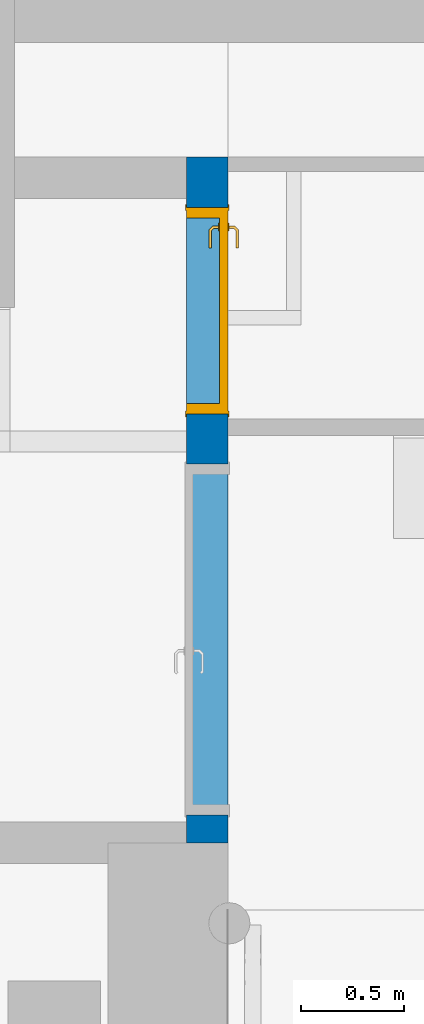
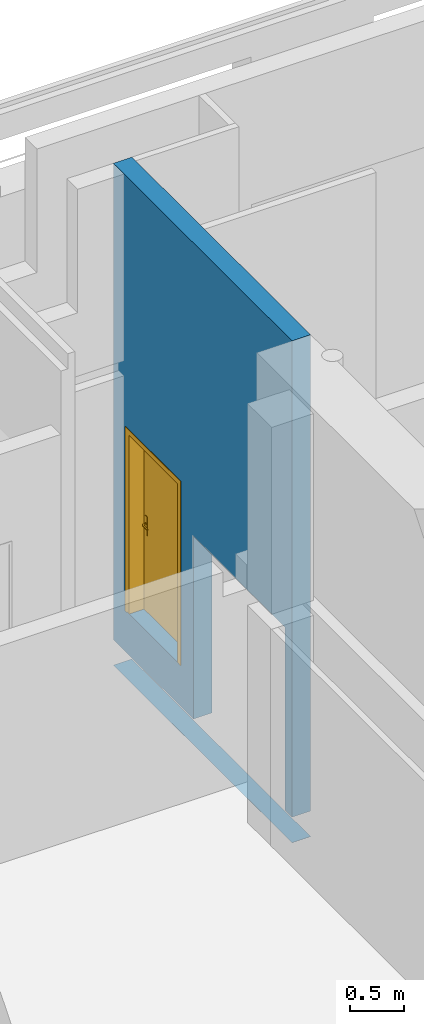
# One storey, part 16 of 39: 1 door, 1 wall, 2 openings.
"""IFC4 building model written with IfcOpenShell, lengths in metres."""

from ifc_helpers import new_model, entity, si_unit, converted_unit, derived_unit, direction, frame, origin, place, context, subcontext, project, spatial, indexed_curve, outline, extrude, polygons, source, transform, mapped, material, material_list, layer, layer_set, constituent, constituent_set, type_object, type_shapes, element, fill, save


model = new_model("IFC4")

# Units and contexts
model_context = context("Model", 3, precision=1e-05, world=origin(), true_north=direction((6.12303176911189e-17, 1.0)))
body_context = subcontext(model_context, "Body", "Model", "MODEL_VIEW")
ifc_project = project(units=[si_unit("LENGTHUNIT", "METRE"), si_unit("AREAUNIT", "SQUARE_METRE"), si_unit("VOLUMEUNIT", "CUBIC_METRE"), converted_unit("PLANEANGLEUNIT", "DEGREE", entity("IfcRatioMeasure", 0.0174532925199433), si_unit("PLANEANGLEUNIT", "RADIAN"), dimensions=[0, 0, 0, 0, 0, 0, 0]), si_unit("MASSUNIT", "GRAM", prefix="KILO"), derived_unit("MASSDENSITYUNIT", [(si_unit("MASSUNIT", "GRAM", prefix="KILO"), 1), (si_unit("LENGTHUNIT", "METRE"), -3)]), derived_unit("MOMENTOFINERTIAUNIT", [(si_unit("LENGTHUNIT", "METRE"), 4)]), si_unit("TIMEUNIT", "SECOND"), si_unit("FREQUENCYUNIT", "HERTZ"), si_unit("THERMODYNAMICTEMPERATUREUNIT", "DEGREE_CELSIUS"), derived_unit("THERMALTRANSMITTANCEUNIT", [(si_unit("MASSUNIT", "GRAM", prefix="KILO"), 1), (si_unit("THERMODYNAMICTEMPERATUREUNIT", "KELVIN"), -1), (si_unit("TIMEUNIT", "SECOND"), -3)]), derived_unit("VOLUMETRICFLOWRATEUNIT", [(si_unit("LENGTHUNIT", "METRE"), 3), (si_unit("TIMEUNIT", "SECOND"), -1)]), si_unit("ELECTRICCURRENTUNIT", "AMPERE"), si_unit("ELECTRICVOLTAGEUNIT", "VOLT"), si_unit("POWERUNIT", "WATT"), si_unit("FORCEUNIT", "NEWTON", prefix="KILO"), si_unit("ILLUMINANCEUNIT", "LUX"), si_unit("LUMINOUSFLUXUNIT", "LUMEN"), si_unit("LUMINOUSINTENSITYUNIT", "CANDELA"), derived_unit("USERDEFINED", [(si_unit("MASSUNIT", "GRAM", prefix="KILO"), -1), (si_unit("LENGTHUNIT", "METRE"), -2), (si_unit("TIMEUNIT", "SECOND"), 3), (si_unit("LUMINOUSFLUXUNIT", "LUMEN"), 1)]), derived_unit("LINEARVELOCITYUNIT", [(si_unit("LENGTHUNIT", "METRE"), 1), (si_unit("TIMEUNIT", "SECOND"), -1)]), si_unit("PRESSUREUNIT", "PASCAL"), derived_unit("USERDEFINED", [(si_unit("LENGTHUNIT", "METRE"), -2), (si_unit("MASSUNIT", "GRAM", prefix="KILO"), 1), (si_unit("TIMEUNIT", "SECOND"), -2)]), derived_unit("LINEARFORCEUNIT", [(si_unit("MASSUNIT", "GRAM", prefix="KILO"), 1), (si_unit("LENGTHUNIT", "METRE"), 1), (si_unit("TIMEUNIT", "SECOND"), -2), (si_unit("LENGTHUNIT", "METRE"), -1)]), derived_unit("PLANARFORCEUNIT", [(si_unit("MASSUNIT", "GRAM", prefix="KILO"), 1), (si_unit("LENGTHUNIT", "METRE"), 1), (si_unit("TIMEUNIT", "SECOND"), -2), (si_unit("LENGTHUNIT", "METRE"), -2)])], contexts=[model_context])

# Site, building, storey
site_placement = place(None, origin())
site = spatial("IfcSite", under=ifc_project, at=site_placement, Name="Default", CompositionType="ELEMENT")
building_placement = place(site_placement, origin())
building = spatial("IfcBuilding", under=site, at=building_placement, Name="HOTEL CONSULAIRE BOULOGNE SUR MER", CompositionType="ELEMENT")
storey_placement = place(building_placement, frame((0.0, 0.0, -5.02343668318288)))
storey = spatial("IfcBuildingStorey", under=building, at=storey_placement, Name="SS3", CompositionType="ELEMENT", Elevation=-5.02343668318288)

# Wall, openings, door
ifc_material_1 = material(Name="Mur par défaut", Category="Divers")
ifc_layer = layer(ifc_material_1, 0.2, Name="Mur par défaut", Category="Divers")
ifc_layer_set = layer_set([ifc_layer], Name="Mur de base:Générique - Int.200")
wall_type = type_object("IfcWallType", Name="Mur de base:Générique - Int.200", PredefinedType="NOTDEFINED", material=ifc_layer_set)
wall_placement = place(storey_placement, frame((12.2592268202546, -14.745051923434, -0.94091907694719), z_axis=(0.0, 0.0, 1.0), x_axis=(0.0, 1.0, 0.0)))
wall = element("IfcWall", 1, at=wall_placement, inside=storey, type_object=wall_type, material=ifc_layer_set, Name="Mur de base:Générique - Int.200", ObjectType="Mur de base:Générique - Int.200", PredefinedType="NOTDEFINED", context=body_context, shape_type="Tessellation", body=[
    polygons([(3.32237229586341, -0.0999999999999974, 0.0), (3.32237229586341, 0.100000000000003, 0.0), (3.32237229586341, 0.100000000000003, 0.000919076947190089), (3.32237229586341, -0.0999999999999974, 0.000919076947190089), (0.0, -0.0999999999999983, 0.0), (0.0, -0.0999999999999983, 0.000919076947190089), (0.0, 0.100000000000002, 0.0), (0.0, 0.100000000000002, 0.000919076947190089)], [[[4, 1, 2, 3]], [[6, 5, 1, 4]], [[3, 2, 7, 8]], [[1, 5, 7, 2]], [[5, 6, 8, 7]], [[4, 3, 8, 6]]], closed=True),
    polygons([(3.32237229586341, -0.0999999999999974, 5.6943557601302), (3.25237229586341, -0.0999999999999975, 5.6943557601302), (2.05451902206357, -0.0999999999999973, 5.6943557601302), (1.97451902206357, -0.0999999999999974, 5.6943557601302), (0.0, -0.0999999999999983, 5.6943557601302), (0.0, -0.0999999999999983, 0.29091907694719), (0.134775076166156, -0.0999999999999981, 0.29091907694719), (0.134775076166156, -0.0999999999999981, 2.36591907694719), (1.83477507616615, -0.0999999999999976, 2.36591907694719), (1.83477507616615, -0.0999999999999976, 0.29091907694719), (3.32237229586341, -0.0999999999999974, 0.29091907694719), (3.32237229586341, -0.0999999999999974, 0.760919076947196), (2.0783722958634, -0.0999999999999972, 0.75991907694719), (2.0783722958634, -0.0999999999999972, 2.83491907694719), (3.0783722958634, -0.0999999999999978, 2.83491907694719), (3.0783722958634, -0.0999999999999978, 0.75991907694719), (0.0, 0.100000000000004, 0.29091907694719), (0.0999999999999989, 0.100000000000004, 0.29091907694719), (0.134775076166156, 0.100000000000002, 0.29091907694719), (0.0, 0.100000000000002, 5.6943557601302), (3.12237229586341, 0.100000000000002, 5.6943557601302), (3.32237229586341, 0.100000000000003, 5.6943557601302), (3.32237229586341, 0.100000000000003, 0.75707471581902), (3.32237229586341, 0.100000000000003, 0.29091907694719), (1.99477507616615, 0.100000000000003, 0.29091907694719), (1.89477507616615, 0.100000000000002, 0.29091907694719), (1.83477507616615, 0.100000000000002, 0.29091907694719), (1.83477507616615, 0.100000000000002, 2.36591907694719), (0.134775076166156, 0.100000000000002, 2.36591907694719), (0.0, 0.100000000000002, 3.40490955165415), (0.0, 0.100000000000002, 3.41091907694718), (0.0, 0.100000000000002, 3.57490955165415), (2.0783722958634, 0.100000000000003, 2.83491907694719), (2.0783722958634, 0.100000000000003, 0.75991907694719), (3.0783722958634, 0.100000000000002, 0.75991907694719), (3.0783722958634, 0.100000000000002, 2.83491907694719)], [[[6, 7, 8, 9, 10, 11, 12, 1, 2, 3, 4, 5], [14, 15, 16, 13]], [[18, 19, 7, 6, 17]], [[15, 14, 33, 36]], [[9, 8, 29, 28]], [[25, 24, 11, 10, 27, 26]], [[23, 24, 25, 26, 27, 28, 29, 19, 18, 17, 30, 31, 32, 20, 21, 22], [35, 36, 33, 34]], [[6, 5, 20, 32, 31, 30, 17]], [[16, 15, 36, 35]], [[10, 9, 28, 27]], [[3, 2, 1, 22, 21, 20, 5, 4]], [[13, 16, 35, 34]], [[12, 11, 24, 23, 22, 1]], [[14, 13, 34, 33]], [[8, 7, 19, 29]]], closed=True),
])
opening_1_placement = place(wall_placement, frame((3.0783722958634, 0.0999999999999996, 0.75991907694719)))
opening_1 = element("IfcOpeningElement", 2, at=opening_1_placement, cuts=wall, Name="Int. Simple:PP0.93x2.04:1", ObjectType="Opening", PredefinedType="OPENING", context=body_context, shape_type="SweptSolid", body=[
    extrude(outline(indexed_curve([(0.0, 1.0), (0.0, 0.0), (2.075, 0.0), (2.075, 1.0), (0.0, 1.0)], self_intersect=False)), frame((0.0, 0.0, 0.0), z_axis=(0.0, -1.0, 0.0), x_axis=(0.0, 0.0, 1.0)), (0.0, 0.0, 1.0), 0.2),
])
opening_2_placement = place(wall_placement, frame((0.134775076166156, -0.0999999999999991, 0.29091907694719)))
element("IfcOpeningElement", 3, at=opening_2_placement, cuts=wall, Name="Double (R):1.63m x 2.04m:1", ObjectType="Opening", PredefinedType="OPENING", context=body_context, shape_type="SweptSolid", body=[
    extrude(outline(indexed_curve([(0.0, -2.61302627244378e-30), (2.075, -2.61302627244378e-30), (2.075, 1.7), (0.0, 1.7), (0.0, -2.61302627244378e-30)], self_intersect=False)), frame((0.0, 0.0, 0.0), z_axis=(0.0, 1.0, 0.0), x_axis=(0.0, 0.0, 1.0)), (0.0, 0.0, 1.0), 0.2),
])
ifc_material_2 = material(Name="Finition Peinture - Blanc satiné", Category="Peinture")
ifc_constituent_1 = constituent(ifc_material_2, Name="Finition Peinture - Blanc satiné", Category="Matériaux")
ifc_material_3 = material(Name="Bois - Panneau de porte", Category="Bois")
ifc_constituent_2 = constituent(ifc_material_3, Name="Bois - Panneau de porte", Category="Matériaux")
ifc_material_4 = material(Name="Bois - Cadre de porte", Category="Bois")
ifc_constituent_3 = constituent(ifc_material_4, Name="Bois - Cadre de porte", Category="Matériaux")
ifc_constituent_set = constituent_set(constituents=[ifc_constituent_1, ifc_constituent_2, ifc_constituent_3], Name="MaterialConstituentSet")
ifc_material_list = material_list([ifc_material_3, ifc_material_2, ifc_material_4, ifc_material_4])
door_type = type_object("IfcDoorType", Name="Int. Simple:PP0.93x2.04", OperationType="NOTDEFINED", PredefinedType="DOOR", material=ifc_material_list)
shared_shape = source(origin(), body_context, "Body", "Tessellation", [
    polygons([(0.995000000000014, -0.00500000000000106, 0.870000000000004), (0.995000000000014, -0.00500000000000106, 1.08), (0.985352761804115, -0.00500000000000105, 1.08399601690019), (0.975000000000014, -0.00500000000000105, 1.08535898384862), (0.964647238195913, -0.00500000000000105, 1.08399601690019), (0.955000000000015, -0.00500000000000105, 1.08), (0.955000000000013, -0.00500000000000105, 0.870000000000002), (0.964647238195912, -0.00500000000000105, 0.866003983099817), (0.975000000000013, -0.00500000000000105, 0.86464101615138), (0.985352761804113, -0.00500000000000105, 0.866003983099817), (0.995000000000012, -1.08286712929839e-15, 0.870000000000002), (0.985352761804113, -1.06594733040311e-15, 0.866003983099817), (0.975000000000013, -1.06594733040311e-15, 0.86464101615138), (0.964647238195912, -1.06594733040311e-15, 0.866003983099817), (0.955000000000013, -1.06594733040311e-15, 0.870000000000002), (0.955000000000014, -1.06594733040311e-15, 1.08), (0.964647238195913, -1.06594733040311e-15, 1.08399601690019), (0.975000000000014, -1.06594733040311e-15, 1.08535898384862), (0.985352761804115, -1.06594733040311e-15, 1.08399601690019), (0.995000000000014, -1.08286712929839e-15, 1.08)], [[[1, 2, 3, 4, 5, 6, 7, 8, 9, 10]], [[20, 11, 12, 13, 14, 15, 16, 17, 18, 19]], [[10, 12, 11, 1]], [[9, 13, 12, 10]], [[8, 14, 13, 9]], [[8, 7, 15, 14]], [[15, 7, 6, 16]], [[5, 17, 16, 6]], [[4, 18, 17, 5]], [[3, 19, 18, 4]], [[3, 2, 20, 19]], [[11, 20, 2, 1]]], closed=True),
    polygons([(0.955000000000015, 0.0399999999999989, 1.08), (0.955000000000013, 0.0399999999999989, 0.870000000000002), (0.964647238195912, 0.0399999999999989, 0.866003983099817), (0.975000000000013, 0.0399999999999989, 0.86464101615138), (0.985352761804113, 0.0399999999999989, 0.866003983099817), (0.995000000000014, 0.0399999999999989, 0.870000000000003), (0.995000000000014, 0.0399999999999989, 1.08), (0.985352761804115, 0.0399999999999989, 1.08399601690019), (0.975000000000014, 0.0399999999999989, 1.08535898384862), (0.964647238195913, 0.0399999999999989, 1.08399601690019), (0.955000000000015, 0.0449999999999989, 1.08), (0.964647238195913, 0.0449999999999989, 1.08399601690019), (0.975000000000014, 0.0449999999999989, 1.08535898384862), (0.985352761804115, 0.0449999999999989, 1.08399601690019), (0.995000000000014, 0.0449999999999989, 1.08), (0.995000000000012, 0.0449999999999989, 0.870000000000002), (0.985352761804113, 0.0449999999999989, 0.866003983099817), (0.975000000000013, 0.0449999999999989, 0.86464101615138), (0.964647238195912, 0.0449999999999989, 0.866003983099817), (0.955000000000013, 0.0449999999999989, 0.870000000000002)], [[[6, 7, 8, 9, 10, 1, 2, 3, 4, 5]], [[13, 14, 15, 16, 17, 18, 19, 20, 11, 12]], [[10, 12, 11, 1]], [[9, 13, 12, 10]], [[8, 14, 13, 9]], [[8, 7, 15, 14]], [[16, 15, 7, 6]], [[5, 17, 16, 6]], [[4, 18, 17, 5]], [[3, 19, 18, 4]], [[3, 2, 20, 19]], [[20, 2, 1, 11]]], closed=True),
    polygons([(0.981000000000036, -0.00500000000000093, 1.00699999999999), (0.981000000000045, -0.00500000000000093, 0.992999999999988), (0.977025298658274, -0.00500000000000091, 0.99221955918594), (0.972974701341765, -0.00500000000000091, 0.992219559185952), (0.968999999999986, -0.00500000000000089, 0.993000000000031), (0.968999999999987, -0.00500000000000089, 1.007), (0.972974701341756, -0.00500000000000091, 1.00778044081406), (0.977025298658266, -0.00500000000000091, 1.00778044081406), (0.968999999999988, -0.0276803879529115, 1.007), (0.972974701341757, -0.0293267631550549, 1.00778044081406), (0.977025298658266, -0.0310045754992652, 1.00778044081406), (0.981000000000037, -0.0326509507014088, 1.007), (0.968999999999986, -0.0276803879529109, 0.993000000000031), (0.981000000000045, -0.0326509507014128, 0.992999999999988), (0.977025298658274, -0.0310045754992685, 0.99221955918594), (0.972974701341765, -0.0293267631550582, 0.992219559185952), (0.957652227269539, -0.0390281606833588, 1.007), (0.959298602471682, -0.0430028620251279, 1.00778044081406), (0.960976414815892, -0.0470534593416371, 1.00778044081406), (0.962622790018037, -0.051028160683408, 1.007), (0.957652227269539, -0.0390281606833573, 0.993000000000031), (0.96262279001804, -0.0510281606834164, 0.992999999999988), (0.960976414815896, -0.0470534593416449, 0.99221955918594), (0.959298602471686, -0.0430028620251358, 0.992219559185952), (0.874981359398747, -0.0510281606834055, 1.007), (0.874981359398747, -0.0470534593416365, 1.00778044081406), (0.874981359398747, -0.0430028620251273, 1.00778044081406), (0.874981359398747, -0.0390281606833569, 1.00699999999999), (0.874981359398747, -0.0390281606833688, 0.993000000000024), (0.874981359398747, -0.0430028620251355, 0.992219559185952), (0.874981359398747, -0.0470534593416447, 0.99221955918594), (0.874981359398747, -0.0510281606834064, 0.992999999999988), (0.922692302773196, -0.051028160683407, 1.007), (0.917139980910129, -0.045028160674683, 1.0078786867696), (0.916316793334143, -0.039028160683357, 1.007), (0.922692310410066, -0.0510281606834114, 0.992999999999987), (0.917139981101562, -0.0450281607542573, 0.992121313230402), (0.916316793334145, -0.0390281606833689, 0.993000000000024)], [[[7, 8, 1, 2, 3, 4, 5, 6]], [[17, 21, 38, 29, 28, 35]], [[1, 8, 11, 12]], [[8, 7, 10, 18, 19, 11]], [[7, 6, 9, 10]], [[13, 9, 6, 5]], [[25, 26, 27, 28, 29, 30, 31, 32]], [[4, 16, 13, 5]], [[4, 3, 15, 23, 24, 16]], [[2, 14, 15, 3]], [[12, 14, 2, 1]], [[12, 11, 19, 20]], [[10, 9, 17, 18]], [[21, 17, 9, 13]], [[13, 16, 24, 21]], [[15, 14, 22, 23]], [[20, 22, 14, 12]], [[34, 26, 33]], [[33, 26, 25]], [[33, 20, 19]], [[18, 35, 34]], [[35, 18, 17]], [[28, 27, 35]], [[34, 27, 26]], [[34, 35, 27]], [[34, 33, 19]], [[18, 34, 19]], [[37, 30, 38]], [[31, 37, 36]], [[24, 38, 21]], [[30, 29, 38]], [[31, 36, 32]], [[36, 23, 22]], [[37, 23, 36]], [[37, 24, 23]], [[37, 38, 24]], [[30, 37, 31]], [[22, 20, 33, 25, 32, 36]]], closed=True),
    polygons([(0.968999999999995, 0.0449999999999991, 0.993000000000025), (0.972974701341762, 0.0449999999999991, 0.992219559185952), (0.977025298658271, 0.0449999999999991, 0.99221955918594), (0.981000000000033, 0.044999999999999, 0.992999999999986), (0.981000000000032, 0.044999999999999, 1.007), (0.977025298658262, 0.0449999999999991, 1.00778044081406), (0.972974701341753, 0.0449999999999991, 1.00778044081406), (0.968999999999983, 0.0449999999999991, 1.007), (0.968999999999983, 0.067485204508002, 1.007), (0.968999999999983, 0.0674852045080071, 0.993000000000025), (0.981000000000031, 0.0724557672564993, 1.007), (0.977025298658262, 0.070809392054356, 1.00778044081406), (0.972974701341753, 0.0691315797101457, 1.00778044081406), (0.981000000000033, 0.0724557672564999, 0.992999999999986), (0.972974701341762, 0.0691315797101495, 0.992219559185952), (0.977025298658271, 0.0708093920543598, 0.99221955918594), (0.957514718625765, 0.0789704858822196, 1.007), (0.957514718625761, 0.0789704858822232, 0.993000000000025), (0.962485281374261, 0.0909704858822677, 1.007), (0.960838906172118, 0.0869957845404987, 1.00778044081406), (0.959161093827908, 0.0829451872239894, 1.00778044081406), (0.962485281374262, 0.0909704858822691, 0.992999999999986), (0.959161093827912, 0.0829451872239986, 0.992219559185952), (0.960838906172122, 0.0869957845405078, 0.99221955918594), (0.874954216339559, 0.0789704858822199, 0.993000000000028), (0.874954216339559, 0.0789704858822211, 1.007), (0.874954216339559, 0.0829451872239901, 1.00778044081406), (0.874954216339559, 0.0869957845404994, 1.00778044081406), (0.874954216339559, 0.0909704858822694, 1.007), (0.874954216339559, 0.0909704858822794, 0.992999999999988), (0.874954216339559, 0.086995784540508, 0.99221955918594), (0.874954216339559, 0.0829451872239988, 0.992219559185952), (0.922554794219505, 0.0909704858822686, 1.007), (0.917057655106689, 0.0849704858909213, 1.0078786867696), (0.916234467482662, 0.0789704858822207, 1.007), (0.922554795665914, 0.0909704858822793, 0.992999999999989), (0.917057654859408, 0.0849704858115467, 0.992121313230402), (0.916234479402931, 0.0789704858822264, 0.993000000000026)], [[[2, 3, 4, 5, 6, 7, 8, 1]], [[18, 17, 35, 26, 25, 38]], [[9, 10, 1, 8]], [[27, 28, 29, 30, 31, 32, 25, 26]], [[7, 13, 9, 8]], [[7, 6, 12, 20, 21, 13]], [[5, 11, 12, 6]], [[11, 5, 4, 14]], [[4, 3, 16, 14]], [[3, 2, 15, 23, 24, 16]], [[2, 1, 10, 15]], [[17, 18, 10, 9]], [[9, 13, 21, 17]], [[11, 19, 20, 12]], [[22, 19, 11, 14]], [[14, 16, 24, 22]], [[15, 10, 18, 23]], [[34, 27, 35]], [[28, 34, 33]], [[21, 35, 17]], [[27, 26, 35]], [[28, 33, 29]], [[33, 20, 19]], [[34, 20, 33]], [[34, 21, 20]], [[34, 35, 21]], [[27, 34, 28]], [[19, 22, 36, 30, 29, 33]], [[37, 31, 36]], [[36, 31, 30]], [[36, 22, 24]], [[23, 38, 37]], [[38, 23, 18]], [[25, 32, 38]], [[37, 32, 31]], [[37, 38, 32]], [[37, 36, 24]], [[23, 37, 24]]], closed=True),
    polygons([(1.03500000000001, 0.04, 2.04), (1.03500000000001, 0.04, 0.0), (0.105000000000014, 0.04, 0.0), (0.105000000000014, 0.04, 2.04), (1.03500000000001, 3.38395977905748e-17, 2.04), (0.105000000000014, 3.38395977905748e-17, 2.04), (0.105000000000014, 3.38395977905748e-17, 0.0), (1.03500000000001, 3.38395977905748e-17, 0.0)], [[[3, 4, 1, 2]], [[8, 5, 6, 7]], [[5, 1, 4, 6]], [[6, 4, 3, 7]], [[7, 3, 2, 8]], [[8, 2, 1, 5]]], closed=True),
    polygons([(1.07000000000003, 0.0, 0.0), (1.03500000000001, 0.0, 0.0), (1.03500000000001, 0.040000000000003, 0.0), (1.02000000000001, 0.040000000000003, 0.0), (1.02000000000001, 0.200000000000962, 0.0), (1.07000000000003, 0.200000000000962, 0.0), (1.07000000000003, 0.200000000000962, 2.07500000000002), (1.07000000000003, 0.0, 2.07500000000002), (1.02000000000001, 0.200000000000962, 2.025), (0.120000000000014, 0.200000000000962, 2.025), (0.120000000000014, 0.200000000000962, 3.59657255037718e-24), (0.0699999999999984, 0.200000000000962, 3.88816484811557e-25), (0.0699999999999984, 0.200000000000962, 2.07500000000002), (1.02000000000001, 0.040000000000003, 2.025), (1.03500000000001, 0.040000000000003, 2.04), (0.105000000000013, 0.040000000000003, 2.04), (0.105000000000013, 0.040000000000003, -4.78103047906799e-25), (0.120000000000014, 0.040000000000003, 2.24110802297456e-24), (0.120000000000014, 0.040000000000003, 2.025), (1.03500000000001, 0.0, 2.04), (0.0699999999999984, 0.0, 2.07500000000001), (0.0699999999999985, 0.0, -3.95490158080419e-25), (0.105000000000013, 0.0, -2.84752548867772e-24), (0.105000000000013, 0.0, 2.04)], [[[5, 6, 1, 2, 3, 4]], [[17, 23, 22, 12, 11, 18]], [[19, 10, 9, 14]], [[24, 16, 15, 20]], [[7, 8, 1, 6]], [[11, 10, 19, 18]], [[17, 16, 24, 23]], [[9, 10, 11, 12, 13, 7, 6, 5]], [[9, 5, 4, 14]], [[15, 3, 2, 20]], [[12, 22, 21, 13]], [[19, 14, 4, 3, 15, 16, 17, 18]], [[24, 20, 2, 1, 8, 21, 22, 23]], [[21, 8, 7, 13]]], closed=True),
    polygons([(1.05500000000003, 0.200000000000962, 0.0), (1.05500000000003, 0.205000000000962, 0.0), (1.08500000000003, 0.205000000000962, 0.0), (1.08500000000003, 0.200000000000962, 0.0), (1.08500000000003, 0.200000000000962, 2.09000000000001), (0.0550000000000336, 0.200000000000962, 2.09000000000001), (0.0550000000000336, 0.200000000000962, -9.00794238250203e-25), (0.0850000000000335, 0.200000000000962, -1.80158911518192e-24), (0.0850000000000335, 0.200000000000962, 2.06000000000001), (1.05500000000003, 0.200000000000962, 2.06000000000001), (1.08500000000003, 0.205000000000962, 2.09000000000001), (1.05500000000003, 0.205000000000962, 2.06000000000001), (0.0850000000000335, 0.205000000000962, 2.06000000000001), (0.0850000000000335, 0.205000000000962, -4.34281663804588e-24), (0.0550000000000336, 0.205000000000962, -5.48159974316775e-24), (0.0550000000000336, 0.205000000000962, 2.09000000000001)], [[[2, 3, 4, 1]], [[7, 15, 14, 8]], [[13, 12, 10, 9]], [[9, 10, 1, 4, 5, 6, 7, 8]], [[11, 5, 4, 3]], [[8, 14, 13, 9]], [[12, 13, 14, 15, 16, 11, 3, 2]], [[10, 12, 2, 1]], [[15, 7, 6, 16]], [[6, 5, 11, 16]]], closed=True),
    polygons([(1.05500000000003, -0.00500000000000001, 0.0), (1.05500000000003, 0.0, 0.0), (1.08500000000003, 0.0, 0.0), (1.08500000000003, -0.00500000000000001, 0.0), (0.0850000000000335, -0.00500000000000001, 5.41433564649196e-16), (0.0550000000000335, -0.00500000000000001, 5.41433564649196e-16), (0.0550000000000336, 0.0, 5.41433564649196e-16), (0.0850000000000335, 0.0, 5.41433564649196e-16), (1.08500000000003, -0.00500000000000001, 2.09000000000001), (0.0550000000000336, -0.00500000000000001, 2.09000000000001), (0.0850000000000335, -0.00500000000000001, 2.06000000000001), (1.05500000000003, -0.00500000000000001, 2.06000000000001), (1.08500000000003, 0.0, 2.09000000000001), (1.05500000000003, 0.0, 2.06000000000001), (0.0850000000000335, 0.0, 2.06000000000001), (0.0550000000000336, 0.0, 2.09000000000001)], [[[2, 3, 4, 1]], [[6, 7, 8, 5]], [[15, 14, 12, 11]], [[11, 12, 1, 4, 9, 10, 6, 5]], [[13, 9, 4, 3]], [[5, 8, 15, 11]], [[14, 15, 8, 7, 16, 13, 3, 2]], [[12, 14, 2, 1]], [[7, 6, 10, 16]], [[10, 9, 13, 16]]], closed=True),
])
type_shapes(door_type, [shared_shape])
door_placement = place(opening_1_placement, frame((-1.07000000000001, -0.200000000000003, 0.0)))
door = element("IfcDoor", 4, at=door_placement, inside=storey, type_object=door_type, material=ifc_constituent_set, Name="Int. Simple:PP0.93x2.04", ObjectType="Int. Simple:PP0.93x2.04", OperationType="NOTDEFINED", OverallHeight=2.075, OverallWidth=1.0, PredefinedType="DOOR", context=body_context, shape_type="MappedRepresentation", body=[
    mapped(shared_shape, transform((0.0, 0.0, 0.0), scale=1.0)),
])
fill(opening_1, door)

save(model, "model.ifc")
